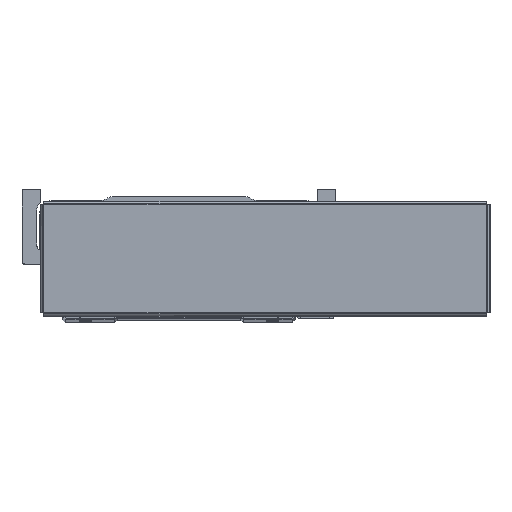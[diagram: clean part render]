
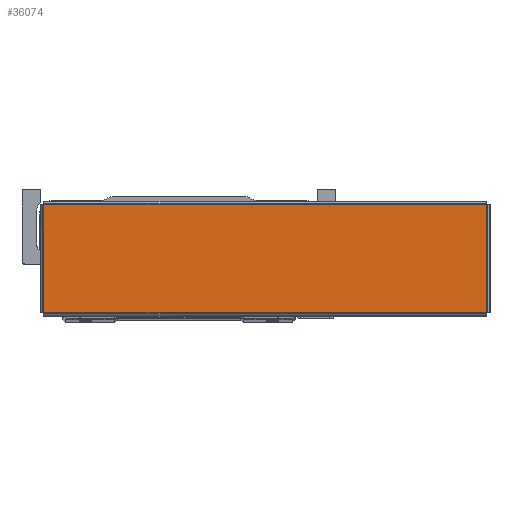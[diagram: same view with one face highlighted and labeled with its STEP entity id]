
A CAD part, top view. The second image highlights one B-rep face of the part: STEP entity #36074.
In plain terms, the highlighted planar face has unit normal (0, 0, 1) as drawn and (0, -1, 0) by its records, which use the part's own axes.
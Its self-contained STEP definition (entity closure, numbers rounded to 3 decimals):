
#1075 = PLANE ( 'NONE',  #12191 ) ;
#1080 = DIRECTION ( 'NONE',  ( 0., 0., 1. ) ) ;
#1083 = DIRECTION ( 'NONE',  ( 0., 1., 0. ) ) ;
#1112 = CARTESIAN_POINT ( 'NONE',  ( 0., -1.2, 0. ) ) ;
#4476 = EDGE_CURVE ( 'NONE', #29749, #29745, #36641, .T. ) ;
#4491 = EDGE_CURVE ( 'NONE', #29707, #29749, #36711, .T. ) ;
#4550 = EDGE_CURVE ( 'NONE', #29745, #29718, #36733, .T. ) ;
#4571 = EDGE_CURVE ( 'NONE', #29718, #29707, #36775, .T. ) ;
#9743 = EDGE_LOOP ( 'NONE', ( #20234, #20271, #20173, #20196 ) ) ;
#11022 = CARTESIAN_POINT ( 'NONE',  ( -128.393, -1.2, -31.363 ) ) ;
#11089 = DIRECTION ( 'NONE',  ( 1., 0., 0. ) ) ;
#11097 = DIRECTION ( 'NONE',  ( 0., 0., -1. ) ) ;
#11104 = CARTESIAN_POINT ( 'NONE',  ( -128.363, -1.2, 31.393 ) ) ;
#11286 = CARTESIAN_POINT ( 'NONE',  ( 128.363, -1.2, -31.393 ) ) ;
#11299 = DIRECTION ( 'NONE',  ( 0., 0., 1. ) ) ;
#11378 = DIRECTION ( 'NONE',  ( -1., 0., 0. ) ) ;
#11403 = CARTESIAN_POINT ( 'NONE',  ( 128.393, -1.2, 31.363 ) ) ;
#12191 = AXIS2_PLACEMENT_3D ( 'NONE', #1112, #1083, #1080 ) ;
#20173 = ORIENTED_EDGE ( 'NONE', *, *, #4476, .T. ) ;
#20196 = ORIENTED_EDGE ( 'NONE', *, *, #4550, .T. ) ;
#20234 = ORIENTED_EDGE ( 'NONE', *, *, #4571, .T. ) ;
#20271 = ORIENTED_EDGE ( 'NONE', *, *, #4491, .T. ) ;
#29707 = VERTEX_POINT ( 'NONE', #47457 ) ;
#29718 = VERTEX_POINT ( 'NONE', #47502 ) ;
#29745 = VERTEX_POINT ( 'NONE', #47526 ) ;
#29749 = VERTEX_POINT ( 'NONE', #47548 ) ;
#35006 = FACE_OUTER_BOUND ( 'NONE', #9743, .T. ) ;
#36074 = ADVANCED_FACE ( 'NONE', ( #35006 ), #1075, .F. ) ;
#36641 = LINE ( 'NONE', #11022, #36643 ) ;
#36643 = VECTOR ( 'NONE', #11089, 1000. ) ;
#36683 = VECTOR ( 'NONE', #11097, 1000. ) ;
#36711 = LINE ( 'NONE', #11104, #36683 ) ;
#36733 = LINE ( 'NONE', #11286, #36761 ) ;
#36761 = VECTOR ( 'NONE', #11299, 1000. ) ;
#36765 = VECTOR ( 'NONE', #11378, 1000. ) ;
#36775 = LINE ( 'NONE', #11403, #36765 ) ;
#47457 = CARTESIAN_POINT ( 'NONE',  ( -128.363, -1.2, 31.363 ) ) ;
#47502 = CARTESIAN_POINT ( 'NONE',  ( 128.363, -1.2, 31.363 ) ) ;
#47526 = CARTESIAN_POINT ( 'NONE',  ( 128.363, -1.2, -31.363 ) ) ;
#47548 = CARTESIAN_POINT ( 'NONE',  ( -128.363, -1.2, -31.363 ) ) ;
